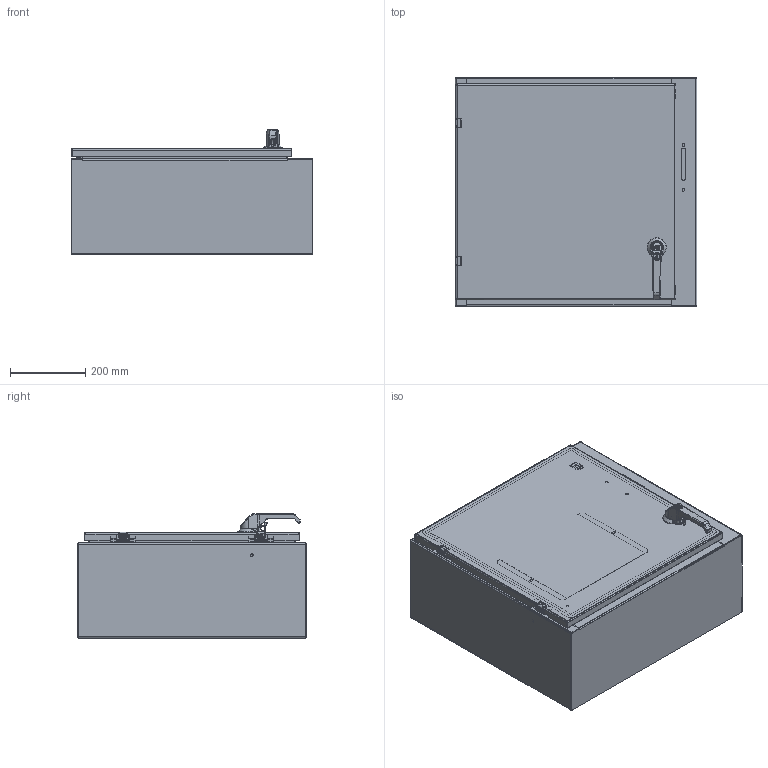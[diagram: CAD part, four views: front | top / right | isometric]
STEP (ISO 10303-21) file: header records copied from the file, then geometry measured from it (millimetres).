
FILE_DESCRIPTION((''),'2;1');
FILE_NAME('MODEL-315_ASM','2023-08-17T07:50:44',('Tony.Gonzales'),('SAGINAW CONTROL & ENGINEERING'),'CREO PARAMETRIC BY PTC INC, 2021284','CREO PARAMETRIC BY PTC INC, 2021284','');
FILE_SCHEMA(('AUTOMOTIVE_DESIGN { 1 0 10303 214 1 1 1 1 }'));
Length unit declared in the file: inch
Products named in the file (47): MODEL-315-BDY; MODEL-315-TP; MODEL-315-BTM; MODEL-315-DR; 100837; 100882; 111267; 100953_HANDLE; 100953_HANDLE_INSERT; 100953_SHAFT_CAM; 100953_ADAPTER_CAM; 100953_NUT_CAM; 100953_BASE; 100953_O-RING; 100953_WASHER_SEALING; 100953_NUT_MOUNTING_LARGE; 100953_NUT_MOUNTING_SMALL; 100953_SCREW_SMALL; 100953_INSERT; 100953_PADLOCK_CATCH; 100953_ASM; 128142; 100030; 128142_ASM; MODEL-315-ROD-UPR; 128146; 128145; 128144; 102482; MODEL-315-ROD-UPR_ASM; 128143; 112504; MODEL-315-POUR-GSKT; 126392; 126392_ASM; 126395; 102483; 101226; 101389; 102140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
Assembly tree (73 placements, depth 4):
  MODEL-315_ASM
    MODEL-315-BDY
    MODEL-315-TP
    MODEL-315-BTM
    MODEL-315-DR-ASSY_ASM
      MODEL-315-DR
      100837  x6
      100882  x3
      111267
      100953_ASM
        100953_HANDLE
        100953_HANDLE_INSERT
        100953_SHAFT_CAM
        100953_ADAPTER_CAM
        100953_NUT_CAM
        100953_BASE
        100953_O-RING
        100953_WASHER_SEALING
        100953_NUT_MOUNTING_LARGE
        100953_NUT_MOUNTING_SMALL
        100953_SCREW_SMALL
        100953_INSERT
        100953_PADLOCK_CATCH
      128142_ASM
        128142
        100030  x2
      MODEL-315-ROD-UPR_ASM
        MODEL-315-ROD-UPR
        128146
        128145
        128144
        102482  x2
      128143
      112504
      MODEL-315-POUR-GSKT
      126392_ASM  x2
        126392
      126395  x2
      102483  x6
      101226  x2
      101389  x2
      102140  x2
    100837  x2
    101653  x4
    122191
    SUBPANEL-SUBASSEMBLY_ASM
      SUBPANEL
      100904  x4
Bounding box: 644.52 x 609.6 x 331.13 mm (x, y, z)
Volume: 4516511.7 mm3; surface area: 4115616.1 mm2
Topology: 68 solids, 68 shells, 5069 faces, 12920 edges, 7991 vertices
Faces by surface type: plane 1788, cylinder 1368, bspline 866, cone 525, torus 372, sphere 150
Entity records: 199146 total; most frequent: CARTESIAN_POINT 71165, ORIENTED_EDGE 19640, DIRECTION 17939, PRESENTATION_STYLE_ASSIGNMENT 10006, STYLED_ITEM 9860, CURVE_STYLE 9820, EDGE_CURVE 9820, AXIS2_PLACEMENT_3D 6716
